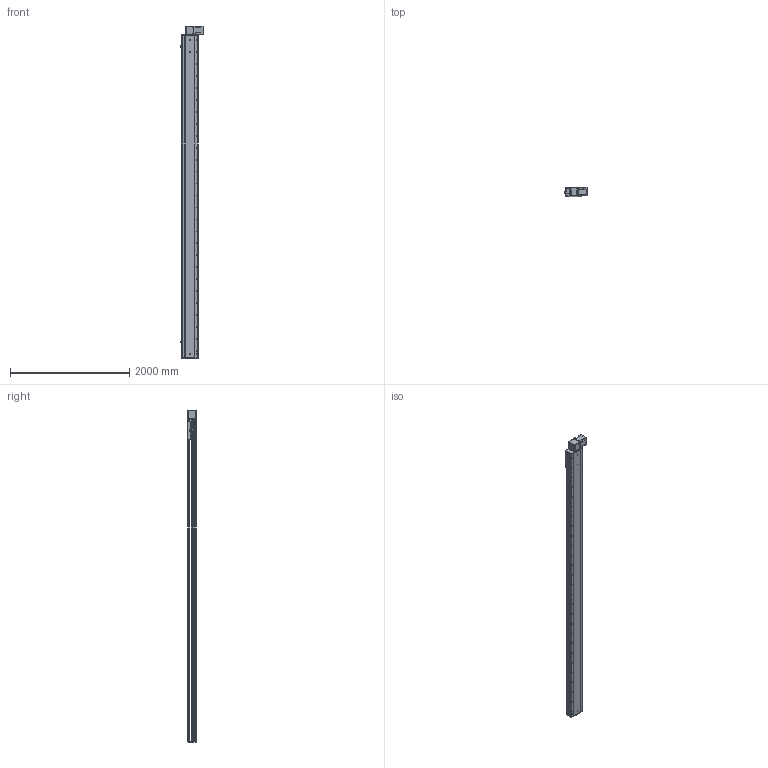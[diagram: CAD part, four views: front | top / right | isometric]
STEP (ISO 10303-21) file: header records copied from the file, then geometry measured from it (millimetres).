
FILE_DESCRIPTION (( 'STEP AP214' ), '1' );
FILE_NAME ('RTB28S-XX-4950-BL-M100-XX-C4.STEP', '2025-12-22T02:49:22', ( '' ), ( '' ), 'SwSTEP 2.0', 'SolidWorks 2018', '' );
FILE_SCHEMA (( 'AUTOMOTIVE_DESIGN' ));
Length unit declared in the file: millimetre
Products named in the file (4): RTB28S-GY-011^RTB28S-XX-XX-BL-M100-XX-C4; RTB28S-GY-008^RTB28S-XX-XX-BL-M100-XX-C4; RTB28S-XX-4950-BL-M100-XX-C4; RTB28S-GY-004^RTB28S-XX-XX-BL-M100-XX-C4
Assembly tree (3 placements, depth 2):
  RTB28S-XX-4950-BL-M100-XX-C4
    RTB28S-GY-011^RTB28S-XX-XX-BL-M100-XX-C4
    RTB28S-GY-004^RTB28S-XX-XX-BL-M100-XX-C4
    RTB28S-GY-008^RTB28S-XX-XX-BL-M100-XX-C4
Bounding box: 380.7 x 145 x 5557 mm (x, y, z)
Volume: 91813009.4 mm3; surface area: 8476149.6 mm2
Topology: 3 solids, 4 shells, 988 faces, 2688 edges, 1728 vertices
Faces by surface type: cylinder 519, plane 385, cone 80, torus 4
Entity records: 39233 total; most frequent: CARTESIAN_POINT 8002, DIRECTION 5742, ORIENTED_EDGE 5312, EDGE_CURVE 2656, AXIS2_PLACEMENT_3D 2156, VERTEX_POINT 1728, LINE 1430, VECTOR 1430
